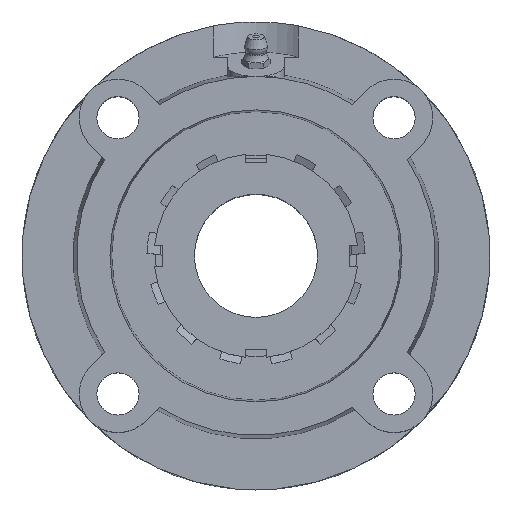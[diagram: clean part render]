
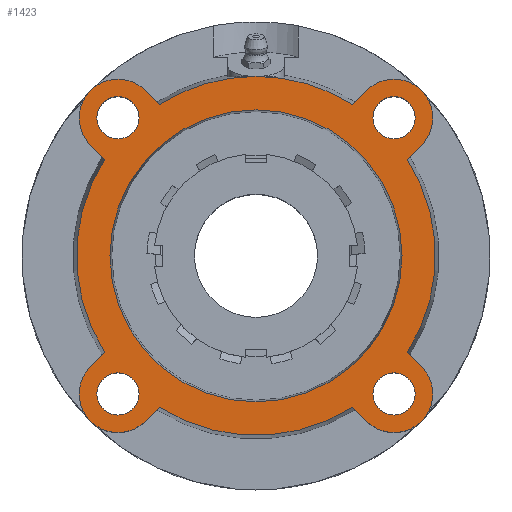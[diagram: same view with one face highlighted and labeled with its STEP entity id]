
A CAD part, top view. The second image highlights one B-rep face of the part: STEP entity #1423.
In plain terms, the highlighted planar face has unit normal (0, 0, 1).
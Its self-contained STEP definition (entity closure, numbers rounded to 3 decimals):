
#181=CARTESIAN_POINT('',(33.244,-39.244,17.));
#182=VERTEX_POINT('',#181);
#183=CARTESIAN_POINT('',(39.244,-39.244,17.));
#184=DIRECTION('',(0.0,0.0,-1.0));
#185=DIRECTION('',(1.0,0.0,0.0));
#186=AXIS2_PLACEMENT_3D('',#183,#184,#185);
#187=CIRCLE('',#186,6.);
#188=EDGE_CURVE('',#182,#182,#187,.T.);
#209=CARTESIAN_POINT('',(-45.244,39.244,17.));
#210=VERTEX_POINT('',#209);
#211=CARTESIAN_POINT('',(-39.244,39.244,17.));
#212=DIRECTION('',(0.0,0.0,-1.0));
#213=DIRECTION('',(1.0,0.0,0.0));
#214=AXIS2_PLACEMENT_3D('',#211,#212,#213);
#215=CIRCLE('',#214,6.);
#216=EDGE_CURVE('',#210,#210,#215,.T.);
#237=CARTESIAN_POINT('',(-45.244,-39.244,17.));
#238=VERTEX_POINT('',#237);
#239=CARTESIAN_POINT('',(-39.244,-39.244,17.));
#240=DIRECTION('',(0.0,0.0,-1.0));
#241=DIRECTION('',(1.0,0.0,0.0));
#242=AXIS2_PLACEMENT_3D('',#239,#240,#241);
#243=CIRCLE('',#242,6.);
#244=EDGE_CURVE('',#238,#238,#243,.T.);
#265=CARTESIAN_POINT('',(33.244,39.244,17.));
#266=VERTEX_POINT('',#265);
#267=CARTESIAN_POINT('',(39.244,39.244,17.));
#268=DIRECTION('',(0.0,0.0,-1.0));
#269=DIRECTION('',(1.0,0.0,0.0));
#270=AXIS2_PLACEMENT_3D('',#267,#268,#269);
#271=CIRCLE('',#270,6.);
#272=EDGE_CURVE('',#266,#266,#271,.T.);
#428=CARTESIAN_POINT('',(0.0,41.5,17.));
#429=VERTEX_POINT('',#428);
#430=CARTESIAN_POINT('',(0.0,0.,17.));
#431=DIRECTION('',(0.0,0.0,-1.0));
#432=DIRECTION('',(0.0,1.0,0.0));
#433=AXIS2_PLACEMENT_3D('',#430,#431,#432);
#434=CIRCLE('',#433,41.5);
#435=EDGE_CURVE('',#429,#429,#434,.T.);
#702=CARTESIAN_POINT('',(0.,51.,17.));
#703=VERTEX_POINT('',#702);
#825=CARTESIAN_POINT('',(-27.435,42.992,17.));
#826=VERTEX_POINT('',#825);
#840=CARTESIAN_POINT('',(0.0,0.,17.));
#841=DIRECTION('',(0.0,0.0,-1.0));
#842=DIRECTION('',(0.0,1.0,0.0));
#843=AXIS2_PLACEMENT_3D('',#840,#841,#842);
#844=CIRCLE('',#843,51.);
#845=EDGE_CURVE('',#826,#703,#844,.T.);
#858=CARTESIAN_POINT('',(27.435,42.992,17.));
#859=VERTEX_POINT('',#858);
#860=CARTESIAN_POINT('',(0.0,0.,17.));
#861=DIRECTION('',(0.0,0.0,-1.0));
#862=DIRECTION('',(0.0,1.0,0.0));
#863=AXIS2_PLACEMENT_3D('',#860,#861,#862);
#864=CIRCLE('',#863,51.);
#865=EDGE_CURVE('',#703,#859,#864,.T.);
#889=CARTESIAN_POINT('',(-42.992,27.435,17.));
#890=VERTEX_POINT('',#889);
#906=CARTESIAN_POINT('',(-47.023,31.466,17.));
#907=VERTEX_POINT('',#906);
#908=CARTESIAN_POINT('',(-42.992,27.435,17.));
#909=DIRECTION('',(-0.707,0.707,0.0));
#910=VECTOR('',#909,5.7);
#911=LINE('',#908,#910);
#912=EDGE_CURVE('',#890,#907,#911,.T.);
#936=CARTESIAN_POINT('',(-27.435,-42.992,17.0));
#937=VERTEX_POINT('',#936);
#953=CARTESIAN_POINT('',(-31.466,-47.023,17.0));
#954=VERTEX_POINT('',#953);
#955=CARTESIAN_POINT('',(-27.435,-42.992,17.));
#956=DIRECTION('',(-0.707,-0.707,0.0));
#957=VECTOR('',#956,5.7);
#958=LINE('',#955,#957);
#959=EDGE_CURVE('',#937,#954,#958,.T.);
#983=CARTESIAN_POINT('',(42.992,-27.435,17.0));
#984=VERTEX_POINT('',#983);
#1000=CARTESIAN_POINT('',(47.023,-31.466,17.0));
#1001=VERTEX_POINT('',#1000);
#1002=CARTESIAN_POINT('',(42.992,-27.435,17.0));
#1003=DIRECTION('',(0.707,-0.707,0.0));
#1004=VECTOR('',#1003,5.7);
#1005=LINE('',#1002,#1004);
#1006=EDGE_CURVE('',#984,#1001,#1005,.T.);
#1031=CARTESIAN_POINT('',(31.466,47.023,17.));
#1032=VERTEX_POINT('',#1031);
#1033=CARTESIAN_POINT('',(27.435,42.992,17.));
#1034=DIRECTION('',(0.707,0.707,0.0));
#1035=VECTOR('',#1034,5.7);
#1036=LINE('',#1033,#1035);
#1037=EDGE_CURVE('',#859,#1032,#1036,.T.);
#1056=CARTESIAN_POINT('',(27.435,-42.992,17.0));
#1057=VERTEX_POINT('',#1056);
#1079=CARTESIAN_POINT('',(31.466,-47.023,17.0));
#1080=VERTEX_POINT('',#1079);
#1087=CARTESIAN_POINT('',(31.466,-47.023,17.));
#1088=DIRECTION('',(-0.707,0.707,0.));
#1089=VECTOR('',#1088,5.7);
#1090=LINE('',#1087,#1089);
#1091=EDGE_CURVE('',#1080,#1057,#1090,.T.);
#1101=CARTESIAN_POINT('',(-47.023,-31.466,17.0));
#1102=VERTEX_POINT('',#1101);
#1103=CARTESIAN_POINT('',(-39.244,-39.244,17.));
#1104=DIRECTION('',(0.0,0.0,-1.0));
#1105=DIRECTION('',(-0.634,0.774,0.0));
#1106=AXIS2_PLACEMENT_3D('',#1103,#1104,#1105);
#1107=CIRCLE('',#1106,11.);
#1108=EDGE_CURVE('',#954,#1102,#1107,.T.);
#1143=CARTESIAN_POINT('',(-42.992,-27.435,17.0));
#1144=VERTEX_POINT('',#1143);
#1165=CARTESIAN_POINT('',(-47.023,-31.466,17.0));
#1166=DIRECTION('',(0.707,0.707,0.));
#1167=VECTOR('',#1166,5.7);
#1168=LINE('',#1165,#1167);
#1169=EDGE_CURVE('',#1102,#1144,#1168,.T.);
#1179=CARTESIAN_POINT('',(-31.466,47.023,17.));
#1180=VERTEX_POINT('',#1179);
#1181=CARTESIAN_POINT('',(-39.244,39.244,17.));
#1182=DIRECTION('',(0.0,0.0,-1.0));
#1183=DIRECTION('',(0.774,0.634,0.0));
#1184=AXIS2_PLACEMENT_3D('',#1181,#1182,#1183);
#1185=CIRCLE('',#1184,11.);
#1186=EDGE_CURVE('',#907,#1180,#1185,.T.);
#1214=CARTESIAN_POINT('',(-31.466,47.023,17.));
#1215=DIRECTION('',(0.707,-0.707,0.));
#1216=VECTOR('',#1215,5.7);
#1217=LINE('',#1214,#1216);
#1218=EDGE_CURVE('',#1180,#826,#1217,.T.);
#1228=CARTESIAN_POINT('',(47.023,31.466,17.));
#1229=VERTEX_POINT('',#1228);
#1230=CARTESIAN_POINT('',(39.244,39.244,17.));
#1231=DIRECTION('',(0.0,0.0,-1.0));
#1232=DIRECTION('',(0.634,-0.774,0.0));
#1233=AXIS2_PLACEMENT_3D('',#1230,#1231,#1232);
#1234=CIRCLE('',#1233,11.);
#1235=EDGE_CURVE('',#1032,#1229,#1234,.T.);
#1264=CARTESIAN_POINT('',(42.992,27.435,17.));
#1265=VERTEX_POINT('',#1264);
#1286=CARTESIAN_POINT('',(47.023,31.466,17.));
#1287=DIRECTION('',(-0.707,-0.707,0.));
#1288=VECTOR('',#1287,5.7);
#1289=LINE('',#1286,#1288);
#1290=EDGE_CURVE('',#1229,#1265,#1289,.T.);
#1300=CARTESIAN_POINT('',(39.244,-39.244,17.));
#1301=DIRECTION('',(0.0,0.0,-1.0));
#1302=DIRECTION('',(-0.774,-0.634,0.0));
#1303=AXIS2_PLACEMENT_3D('',#1300,#1301,#1302);
#1304=CIRCLE('',#1303,11.);
#1305=EDGE_CURVE('',#1001,#1080,#1304,.T.);
#1366=CARTESIAN_POINT('',(0.0,25.5,17.));
#1367=DIRECTION('',(0.0,0.0,1.0));
#1368=DIRECTION('',(1.0,0.0,0.0));
#1369=AXIS2_PLACEMENT_3D('',#1366,#1367,#1368);
#1370=PLANE('',#1369);
#1371=CARTESIAN_POINT('',(0.0,0.,17.));
#1372=DIRECTION('',(0.0,0.0,-1.0));
#1373=DIRECTION('',(0.0,1.0,0.0));
#1374=AXIS2_PLACEMENT_3D('',#1371,#1372,#1373);
#1375=CIRCLE('',#1374,51.);
#1376=EDGE_CURVE('',#1057,#937,#1375,.T.);
#1377=ORIENTED_EDGE('',*,*,#1376,.F.);
#1378=ORIENTED_EDGE('',*,*,#1091,.F.);
#1379=ORIENTED_EDGE('',*,*,#1305,.F.);
#1380=ORIENTED_EDGE('',*,*,#1006,.F.);
#1381=CARTESIAN_POINT('',(0.0,0.,17.));
#1382=DIRECTION('',(0.0,0.0,-1.0));
#1383=DIRECTION('',(0.0,1.0,0.0));
#1384=AXIS2_PLACEMENT_3D('',#1381,#1382,#1383);
#1385=CIRCLE('',#1384,51.);
#1386=EDGE_CURVE('',#1265,#984,#1385,.T.);
#1387=ORIENTED_EDGE('',*,*,#1386,.F.);
#1388=ORIENTED_EDGE('',*,*,#1290,.F.);
#1389=ORIENTED_EDGE('',*,*,#1235,.F.);
#1390=ORIENTED_EDGE('',*,*,#1037,.F.);
#1391=ORIENTED_EDGE('',*,*,#865,.F.);
#1392=ORIENTED_EDGE('',*,*,#845,.F.);
#1393=ORIENTED_EDGE('',*,*,#1218,.F.);
#1394=ORIENTED_EDGE('',*,*,#1186,.F.);
#1395=ORIENTED_EDGE('',*,*,#912,.F.);
#1396=CARTESIAN_POINT('',(0.0,0.,17.));
#1397=DIRECTION('',(0.0,0.0,-1.0));
#1398=DIRECTION('',(0.0,1.0,0.0));
#1399=AXIS2_PLACEMENT_3D('',#1396,#1397,#1398);
#1400=CIRCLE('',#1399,51.);
#1401=EDGE_CURVE('',#1144,#890,#1400,.T.);
#1402=ORIENTED_EDGE('',*,*,#1401,.F.);
#1403=ORIENTED_EDGE('',*,*,#1169,.F.);
#1404=ORIENTED_EDGE('',*,*,#1108,.F.);
#1405=ORIENTED_EDGE('',*,*,#959,.F.);
#1406=EDGE_LOOP('',(#1377,#1378,#1379,#1380,#1387,#1388,#1389,#1390,#1391,#1392,#1393,#1394,#1395,#1402,#1403,#1404,#1405));
#1407=FACE_OUTER_BOUND('',#1406,.T.);
#1408=ORIENTED_EDGE('',*,*,#188,.T.);
#1409=EDGE_LOOP('',(#1408));
#1410=FACE_BOUND('',#1409,.T.);
#1411=ORIENTED_EDGE('',*,*,#216,.T.);
#1412=EDGE_LOOP('',(#1411));
#1413=FACE_BOUND('',#1412,.T.);
#1414=ORIENTED_EDGE('',*,*,#244,.T.);
#1415=EDGE_LOOP('',(#1414));
#1416=FACE_BOUND('',#1415,.T.);
#1417=ORIENTED_EDGE('',*,*,#272,.T.);
#1418=EDGE_LOOP('',(#1417));
#1419=FACE_BOUND('',#1418,.T.);
#1420=ORIENTED_EDGE('',*,*,#435,.T.);
#1421=EDGE_LOOP('',(#1420));
#1422=FACE_BOUND('',#1421,.T.);
#1423=ADVANCED_FACE('',(#1407,#1410,#1413,#1416,#1419,#1422),#1370,.T.);
